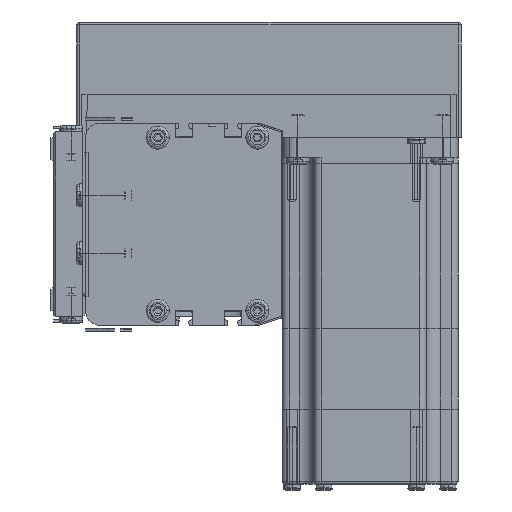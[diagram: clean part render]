
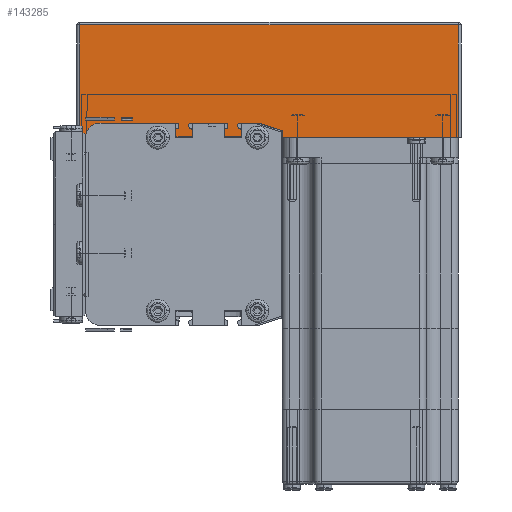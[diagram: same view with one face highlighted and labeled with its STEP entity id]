
A CAD part, left-side view. The second image highlights one B-rep face of the part: STEP entity #143285.
In plain terms, the highlighted planar face has unit normal (-1, 0, 0) as drawn and (0, 1, 0) by its records, which use the part's own axes.
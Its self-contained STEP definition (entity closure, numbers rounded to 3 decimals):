
#53346 = DIRECTION ( 'NONE',  ( -1., 0., 0. ) ) ;
#53349 = VECTOR ( 'NONE', #53346, 1000. ) ;
#53352 = CARTESIAN_POINT ( 'NONE',  ( 0., 62., 0. ) ) ;
#53387 = LINE ( 'NONE', #53352, #53349 ) ;
#53454 = CARTESIAN_POINT ( 'NONE',  ( 132., 62., 0. ) ) ;
#53608 = DIRECTION ( 'NONE',  ( 1., 0., 0. ) ) ;
#53611 = VECTOR ( 'NONE', #53608, 1000. ) ;
#53613 = CARTESIAN_POINT ( 'NONE',  ( 0., 62., 39. ) ) ;
#53617 = DIRECTION ( 'NONE',  ( 0., 0., -1. ) ) ;
#53621 = DIRECTION ( 'NONE',  ( 0., -1., 0. ) ) ;
#53625 = CARTESIAN_POINT ( 'NONE',  ( 0., 62., 40. ) ) ;
#53631 = LINE ( 'NONE', #53613, #53611 ) ;
#53638 = CARTESIAN_POINT ( 'NONE',  ( 1., 62., 0. ) ) ;
#53640 = AXIS2_PLACEMENT_3D ( 'NONE', #53625, #53621, #53617 ) ;
#53658 = PLANE ( 'NONE',  #53640 ) ;
#53694 = FACE_OUTER_BOUND ( 'NONE', #143310, .T. ) ;
#53727 = CARTESIAN_POINT ( 'NONE',  ( 1., 62., 39. ) ) ;
#54362 = CARTESIAN_POINT ( 'NONE',  ( 132., 62., 39. ) ) ;
#55754 = DIRECTION ( 'NONE',  ( 0., 0., 1. ) ) ;
#55757 = VECTOR ( 'NONE', #55754, 1000. ) ;
#55758 = CARTESIAN_POINT ( 'NONE',  ( 1., 62., 40. ) ) ;
#55759 = LINE ( 'NONE', #55758, #55757 ) ;
#56194 = CARTESIAN_POINT ( 'NONE',  ( 132., 62., 40. ) ) ;
#56196 = LINE ( 'NONE', #56194, #56267 ) ;
#56265 = DIRECTION ( 'NONE',  ( 0., 0., -1. ) ) ;
#56267 = VECTOR ( 'NONE', #56265, 1000. ) ;
#143243 = EDGE_CURVE ( 'NONE', #143284, #143294, #53387, .T. ) ;
#143284 = VERTEX_POINT ( 'NONE', #53454 ) ;
#143285 = ADVANCED_FACE ( 'NONE', ( #53694 ), #53658, .F. ) ;
#143286 = EDGE_CURVE ( 'NONE', #143308, #143358, #53631, .T. ) ;
#143294 = VERTEX_POINT ( 'NONE', #53638 ) ;
#143307 = ORIENTED_EDGE ( 'NONE', *, *, #143286, .T. ) ;
#143308 = VERTEX_POINT ( 'NONE', #53727 ) ;
#143310 = EDGE_LOOP ( 'NONE', ( #143307, #143407, #143329, #143414 ) ) ;
#143329 = ORIENTED_EDGE ( 'NONE', *, *, #143243, .T. ) ;
#143358 = VERTEX_POINT ( 'NONE', #54362 ) ;
#143407 = ORIENTED_EDGE ( 'NONE', *, *, #143482, .T. ) ;
#143414 = ORIENTED_EDGE ( 'NONE', *, *, #143422, .T. ) ;
#143422 = EDGE_CURVE ( 'NONE', #143294, #143308, #55759, .T. ) ;
#143482 = EDGE_CURVE ( 'NONE', #143358, #143284, #56196, .T. ) ;
